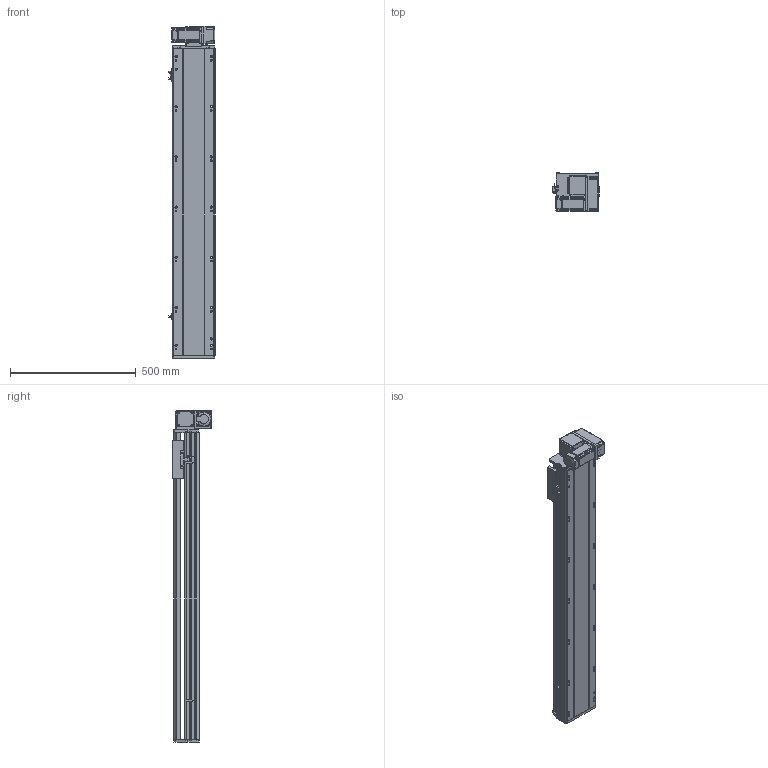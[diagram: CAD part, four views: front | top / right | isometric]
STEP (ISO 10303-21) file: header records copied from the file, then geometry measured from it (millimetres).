
FILE_DESCRIPTION (( 'STEP AP214' ), '1' );
FILE_NAME ('RTB17S-XX-950-RM-M40-C4.STEP', '2025-12-11T08:16:00', ( '' ), ( '' ), 'SwSTEP 2.0', 'SolidWorks 2018', '' );
FILE_SCHEMA (( 'AUTOMOTIVE_DESIGN' ));
Length unit declared in the file: millimetre
Products named in the file (14): RTB14-L-018P^RTB17S-RM-々湍釱蚾饜-400W_RTB17S-XX-XX-RM-M40-C4; RTB14-L-008-M20--萇儂啣^RTB17S-RM-々湍釱蚾饜-400W_RTB17S-XX-XX-RM-M40-C4; RTB17S-XX-950-RM-M40-C4; RTB17S-RM-々湍釱蚾饜-400W^RTB17S-XX-XX-RM-M40-C4; RTB17S-L-001耜醱啣^RTB17S-XX-XX-RM-M40-C4; 400W侜督萇儂^RTB17S-XX-XX-RM-M40-C4; OMRON EE-SX672 传感器^RTB17S-XX-XX-RM-M40-C4; RTB17S-L-004佪裝蹟譫蟀諉釱^RTB17S-XX-XX-RM-M40-C4; RTB14-L-005P--轴承塑胶压盖^RTB17S-RM-皮带座装配-400W_RTB17S-XX-XX-RM-M40-C4; RTB17S-L-007奻裔^RTB17S-XX-XX-RM-M40-C4; RTB14-L-017P^RTB17S-RM-々湍釱蚾饜-400W_RTB17S-XX-XX-RM-M40-C4; RTB17S-L-014-T20--々湍釱^RTB17S-RM-々湍釱蚾饜-400W_RTB17S-XX-XX-RM-M40-C4; RTH13-BL-012覜茼え俋离^RTB17S-XX-XX-RM-M40-C4; RTB17-R-011菁釱^RTB17S-XX-XX-RM-M40-C4
Assembly tree (16 placements, depth 3):
  RTB17S-XX-950-RM-M40-C4
    RTB17-R-011菁釱^RTB17S-XX-XX-RM-M40-C4
    RTB17S-L-007奻裔^RTB17S-XX-XX-RM-M40-C4
    OMRON EE-SX672 传感器^RTB17S-XX-XX-RM-M40-C4  x3
    RTB17S-L-001耜醱啣^RTB17S-XX-XX-RM-M40-C4
    400W侜督萇儂^RTB17S-XX-XX-RM-M40-C4
    RTB17S-L-004佪裝蹟譫蟀諉釱^RTB17S-XX-XX-RM-M40-C4
    RTH13-BL-012覜茼え俋离^RTB17S-XX-XX-RM-M40-C4
    RTB17S-RM-々湍釱蚾饜-400W^RTB17S-XX-XX-RM-M40-C4
      RTB17S-L-014-T20--々湍釱^RTB17S-RM-々湍釱蚾饜-400W_RTB17S-XX-XX-RM-M40-C4
      RTB14-L-005P--轴承塑胶压盖^RTB17S-RM-皮带座装配-400W_RTB17S-XX-XX-RM-M40-C4
      RTB14-L-008-M20--萇儂啣^RTB17S-RM-々湍釱蚾饜-400W_RTB17S-XX-XX-RM-M40-C4
      RTB14-L-017P^RTB17S-RM-々湍釱蚾饜-400W_RTB17S-XX-XX-RM-M40-C4  x2
      RTB14-L-018P^RTB17S-RM-々湍釱蚾饜-400W_RTB17S-XX-XX-RM-M40-C4
Bounding box: 183.5 x 156.5 x 1322.5 mm (x, y, z)
Volume: 11966621.3 mm3; surface area: 1453600.3 mm2
Topology: 15 solids, 15 shells, 2205 faces, 6087 edges, 3969 vertices
Faces by surface type: plane 1068, cylinder 689, bspline 301, cone 139, torus 8
Entity records: 62633 total; most frequent: CARTESIAN_POINT 17492, ORIENTED_EDGE 9018, DIRECTION 8396, EDGE_CURVE 4509, VERTEX_POINT 2957, AXIS2_PLACEMENT_3D 2887, VECTOR 2622, LINE 2622
